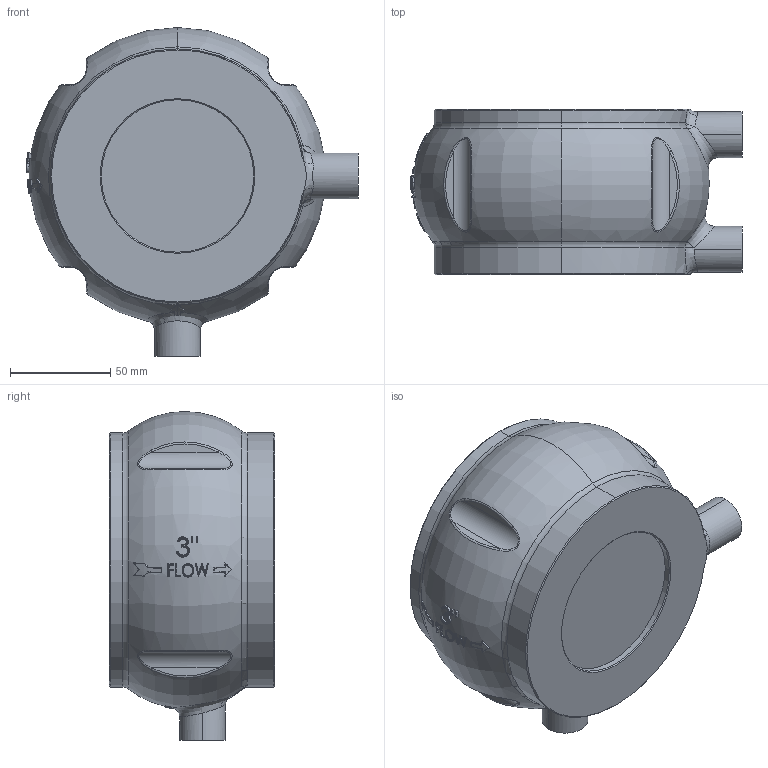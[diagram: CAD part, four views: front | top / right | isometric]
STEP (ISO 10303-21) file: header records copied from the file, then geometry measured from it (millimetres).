
FILE_DESCRIPTION (( 'STEP AP203' ), '1' );
FILE_NAME ('3in 100-42 Roll Seal Main Valve, 150WB.STEP', '2016-12-20T20:00:29', ( '' ), ( '' ), 'SwSTEP 2.0', 'SolidWorks 2016', '' );
FILE_SCHEMA (( 'CONFIG_CONTROL_DESIGN' ));
Length unit declared in the file: inch
Products named in the file (1): 3in 100-42 Roll Seal Main Valve, 150WB
Bounding box: 165.84 x 82.55 x 164.34 mm (x, y, z)
Volume: 1182193.3 mm3; surface area: 81660 mm2
Topology: 1 solids, 1 shells, 563 faces, 1449 edges, 911 vertices
Faces by surface type: plane 168, bspline 143, cylinder 122, torus 92, cone 26, sphere 12
Entity records: 25799 total; most frequent: CARTESIAN_POINT 13382, ORIENTED_EDGE 2882, DIRECTION 2187, EDGE_CURVE 1441, VERTEX_POINT 911, AXIS2_PLACEMENT_3D 898, EDGE_LOOP 594, ADVANCED_FACE 563
